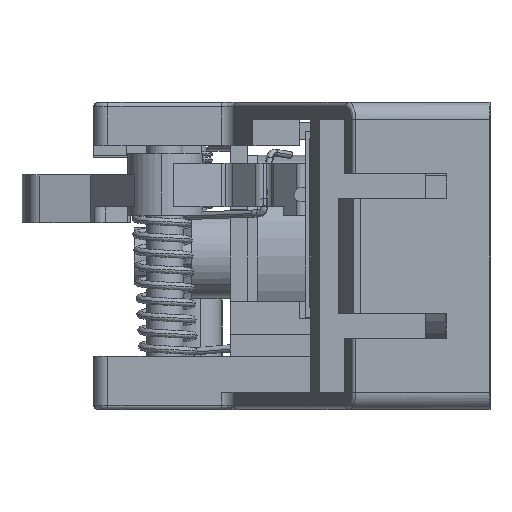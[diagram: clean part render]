
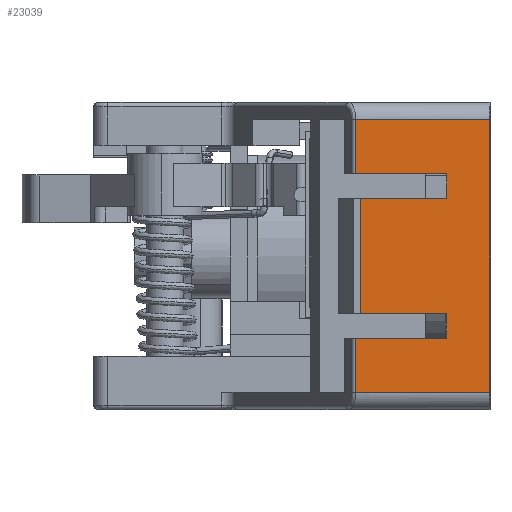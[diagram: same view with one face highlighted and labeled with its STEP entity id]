
A CAD part, left-side view. The second image highlights one B-rep face of the part: STEP entity #23039.
In plain terms, the highlighted planar face has unit normal (-1, 0, 0).
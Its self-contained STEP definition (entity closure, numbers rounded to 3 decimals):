
#355 = CARTESIAN_POINT ( 'NONE',  ( -28.348, -7.16, -9.45 ) ) ;
#1590 = CARTESIAN_POINT ( 'NONE',  ( -28.348, -6.975, 9.45 ) ) ;
#1722 = VERTEX_POINT ( 'NONE', #19973 ) ;
#1821 = CARTESIAN_POINT ( 'NONE',  ( -28.348, -16.475, 9.45 ) ) ;
#2295 = ORIENTED_EDGE ( 'NONE', *, *, #17944, .T. ) ;
#2487 = VECTOR ( 'NONE', #16996, 1000. ) ;
#2900 = DIRECTION ( 'NONE',  ( 0., 0., -1. ) ) ;
#3511 = PLANE ( 'NONE',  #10581 ) ;
#3617 = VERTEX_POINT ( 'NONE', #22784 ) ;
#3911 = DIRECTION ( 'NONE',  ( 0., 0., -1. ) ) ;
#4212 = VECTOR ( 'NONE', #2900, 1000. ) ;
#4259 = VERTEX_POINT ( 'NONE', #8932 ) ;
#4423 = ORIENTED_EDGE ( 'NONE', *, *, #11733, .T. ) ;
#4684 = CARTESIAN_POINT ( 'NONE',  ( -28.348, -13.475, 5.7 ) ) ;
#4714 = LINE ( 'NONE', #23159, #10319 ) ;
#4795 = VERTEX_POINT ( 'NONE', #14959 ) ;
#4891 = LINE ( 'NONE', #4913, #4212 ) ;
#4913 = CARTESIAN_POINT ( 'NONE',  ( -28.348, -7.16, 9.45 ) ) ;
#5143 = DIRECTION ( 'NONE',  ( 0., 1., 0. ) ) ;
#5144 = ORIENTED_EDGE ( 'NONE', *, *, #15934, .F. ) ;
#5238 = VERTEX_POINT ( 'NONE', #355 ) ;
#5292 = ORIENTED_EDGE ( 'NONE', *, *, #26404, .T. ) ;
#5395 = CARTESIAN_POINT ( 'NONE',  ( -28.348, -13.475, -5.7 ) ) ;
#5804 = DIRECTION ( 'NONE',  ( -1., 0., 0. ) ) ;
#5814 = DIRECTION ( 'NONE',  ( 0., 1., 0. ) ) ;
#5853 = CARTESIAN_POINT ( 'NONE',  ( -28.348, -16.475, -9.45 ) ) ;
#6625 = CARTESIAN_POINT ( 'NONE',  ( -28.348, -7.16, -5.7 ) ) ;
#7085 = ORIENTED_EDGE ( 'NONE', *, *, #10326, .T. ) ;
#7437 = VECTOR ( 'NONE', #12368, 1000. ) ;
#7993 = CARTESIAN_POINT ( 'NONE',  ( -28.348, -13.475, 9.45 ) ) ;
#8230 = VECTOR ( 'NONE', #9844, 1000. ) ;
#8758 = LINE ( 'NONE', #23247, #2487 ) ;
#8932 = CARTESIAN_POINT ( 'NONE',  ( -28.348, -13.475, -4. ) ) ;
#9312 = VERTEX_POINT ( 'NONE', #20183 ) ;
#9358 = CARTESIAN_POINT ( 'NONE',  ( -28.348, -6.975, -4. ) ) ;
#9844 = DIRECTION ( 'NONE',  ( 0., 1., 0. ) ) ;
#10319 = VECTOR ( 'NONE', #25296, 1000. ) ;
#10326 = EDGE_CURVE ( 'NONE', #4795, #12116, #12997, .T. ) ;
#10581 = AXIS2_PLACEMENT_3D ( 'NONE', #1590, #5804, #20460 ) ;
#10645 = EDGE_CURVE ( 'NONE', #18240, #5238, #25143, .T. ) ;
#10870 = DIRECTION ( 'NONE',  ( 0., 1., 0. ) ) ;
#11452 = DIRECTION ( 'NONE',  ( 0., -1., 0. ) ) ;
#11482 = VECTOR ( 'NONE', #3911, 1000. ) ;
#11513 = ORIENTED_EDGE ( 'NONE', *, *, #25585, .T. ) ;
#11514 = EDGE_CURVE ( 'NONE', #4259, #24721, #14916, .T. ) ;
#11540 = LINE ( 'NONE', #11794, #22012 ) ;
#11733 = EDGE_CURVE ( 'NONE', #1722, #25943, #4714, .T. ) ;
#11794 = CARTESIAN_POINT ( 'NONE',  ( -28.348, -7.16, 9.45 ) ) ;
#12116 = VERTEX_POINT ( 'NONE', #19753 ) ;
#12171 = VECTOR ( 'NONE', #5143, 1000. ) ;
#12368 = DIRECTION ( 'NONE',  ( 0., 0., -1. ) ) ;
#12997 = LINE ( 'NONE', #27058, #7437 ) ;
#13903 = DIRECTION ( 'NONE',  ( 0., 0., -1. ) ) ;
#13917 = ORIENTED_EDGE ( 'NONE', *, *, #10645, .F. ) ;
#14297 = DIRECTION ( 'NONE',  ( 0., 0., -1. ) ) ;
#14360 = ORIENTED_EDGE ( 'NONE', *, *, #11514, .T. ) ;
#14529 = VECTOR ( 'NONE', #11452, 1000. ) ;
#14609 = FACE_OUTER_BOUND ( 'NONE', #26528, .T. ) ;
#14916 = LINE ( 'NONE', #7993, #26096 ) ;
#14959 = CARTESIAN_POINT ( 'NONE',  ( -28.348, -7.475, 4. ) ) ;
#15159 = ORIENTED_EDGE ( 'NONE', *, *, #21593, .T. ) ;
#15310 = ORIENTED_EDGE ( 'NONE', *, *, #16303, .T. ) ;
#15934 = EDGE_CURVE ( 'NONE', #19299, #18240, #17014, .T. ) ;
#16260 = CARTESIAN_POINT ( 'NONE',  ( -28.348, -6.975, 4. ) ) ;
#16303 = EDGE_CURVE ( 'NONE', #9312, #1722, #4891, .T. ) ;
#16996 = DIRECTION ( 'NONE',  ( 0., 0., -1. ) ) ;
#17014 = LINE ( 'NONE', #1821, #11482 ) ;
#17044 = LINE ( 'NONE', #17705, #12171 ) ;
#17705 = CARTESIAN_POINT ( 'NONE',  ( -28.348, -6.975, -5.7 ) ) ;
#17944 = EDGE_CURVE ( 'NONE', #12116, #4259, #20080, .T. ) ;
#18240 = VERTEX_POINT ( 'NONE', #5853 ) ;
#18258 = ORIENTED_EDGE ( 'NONE', *, *, #26163, .T. ) ;
#18559 = ORIENTED_EDGE ( 'NONE', *, *, #23405, .T. ) ;
#19146 = VECTOR ( 'NONE', #5814, 1000. ) ;
#19299 = VERTEX_POINT ( 'NONE', #22909 ) ;
#19520 = VECTOR ( 'NONE', #10870, 1000. ) ;
#19753 = CARTESIAN_POINT ( 'NONE',  ( -28.348, -7.475, -4. ) ) ;
#19973 = CARTESIAN_POINT ( 'NONE',  ( -28.348, -7.16, 5.7 ) ) ;
#20080 = LINE ( 'NONE', #9358, #14529 ) ;
#20183 = CARTESIAN_POINT ( 'NONE',  ( -28.348, -7.16, 9.45 ) ) ;
#20460 = DIRECTION ( 'NONE',  ( 0., 0., 1. ) ) ;
#21593 = EDGE_CURVE ( 'NONE', #25943, #3617, #8758, .T. ) ;
#22012 = VECTOR ( 'NONE', #13903, 1000. ) ;
#22684 = VERTEX_POINT ( 'NONE', #6625 ) ;
#22784 = CARTESIAN_POINT ( 'NONE',  ( -28.348, -13.475, 4. ) ) ;
#22909 = CARTESIAN_POINT ( 'NONE',  ( -28.348, -16.475, 9.45 ) ) ;
#23039 = ADVANCED_FACE ( 'NONE', ( #14609 ), #3511, .T. ) ;
#23159 = CARTESIAN_POINT ( 'NONE',  ( -28.348, -6.975, 5.7 ) ) ;
#23247 = CARTESIAN_POINT ( 'NONE',  ( -28.348, -13.475, 9.45 ) ) ;
#23405 = EDGE_CURVE ( 'NONE', #3617, #4795, #25426, .T. ) ;
#24296 = LINE ( 'NONE', #24521, #8230 ) ;
#24521 = CARTESIAN_POINT ( 'NONE',  ( -28.348, -6.975, 9.45 ) ) ;
#24721 = VERTEX_POINT ( 'NONE', #5395 ) ;
#25143 = LINE ( 'NONE', #25559, #19520 ) ;
#25296 = DIRECTION ( 'NONE',  ( 0., -1., 0. ) ) ;
#25426 = LINE ( 'NONE', #16260, #19146 ) ;
#25559 = CARTESIAN_POINT ( 'NONE',  ( -28.348, -6.975, -9.45 ) ) ;
#25585 = EDGE_CURVE ( 'NONE', #22684, #5238, #11540, .T. ) ;
#25943 = VERTEX_POINT ( 'NONE', #4684 ) ;
#26096 = VECTOR ( 'NONE', #14297, 1000. ) ;
#26163 = EDGE_CURVE ( 'NONE', #24721, #22684, #17044, .T. ) ;
#26404 = EDGE_CURVE ( 'NONE', #19299, #9312, #24296, .T. ) ;
#26528 = EDGE_LOOP ( 'NONE', ( #13917, #5144, #5292, #15310, #4423, #15159, #18559, #7085, #2295, #14360, #18258, #11513 ) ) ;
#27058 = CARTESIAN_POINT ( 'NONE',  ( -28.348, -7.475, 9.45 ) ) ;
